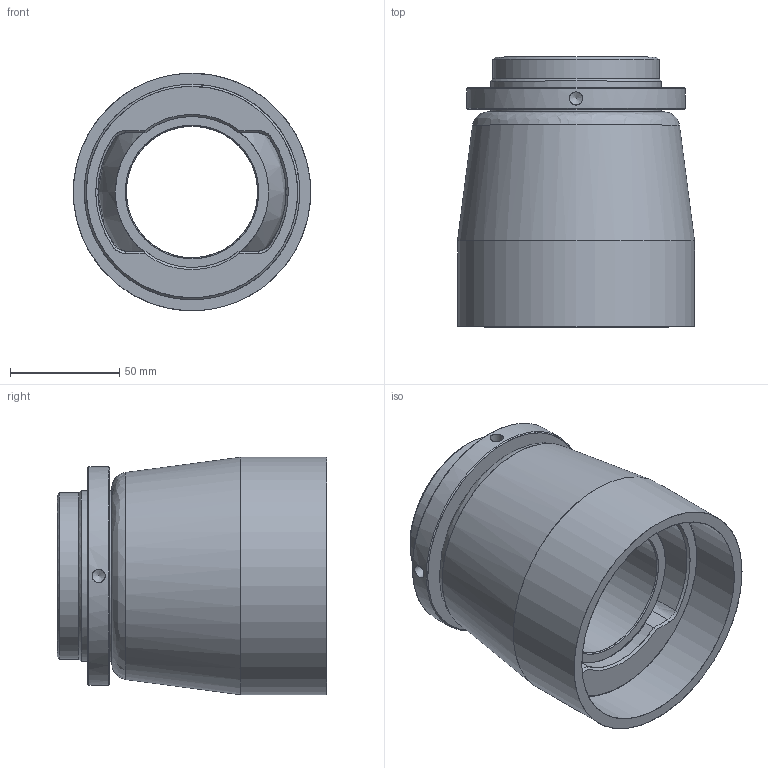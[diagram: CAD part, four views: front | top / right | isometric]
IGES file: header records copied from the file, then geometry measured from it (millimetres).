
Start section: Missler Software 3 rue Hermes, EUROPARC, 31520 Ramonville-Saint-Agne, France Tel   : +33 (0)5 61 00 03 00 Fax   : +33 (0)5 61 00 03 03 Email : sup.solid@topsolid.com
Global section: file name: Z:\J\Jp3\Palier\Palier-type1\3D TopSolid 2011\Serie 10.xx.xx\10.14.xx\10.14.06.igs; native system: TopSolid v611200 Missler Software; preprocessor: IGES preprocessor v100000; author: TAPIN; date: 120223.142722; units: millimetre
Bounding box: 108.5 x 123.28 x 108.5 mm (x, y, z)
Surface area: 158275.9 mm2 (no closed solid volume)
Topology: 0 solids, 0 shells, 69 faces, 1078 edges, 1052 vertices
Faces by surface type: bspline 69
